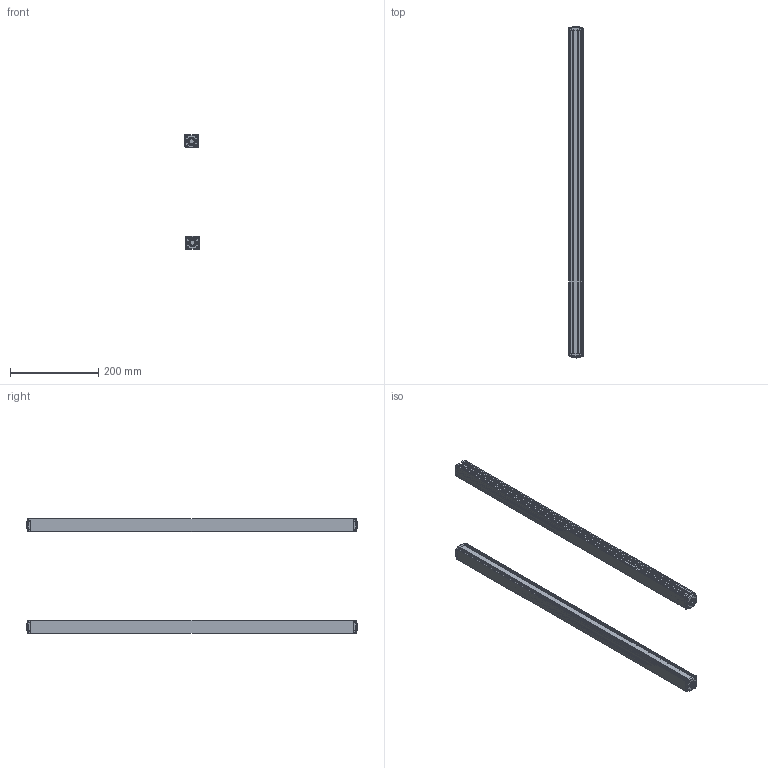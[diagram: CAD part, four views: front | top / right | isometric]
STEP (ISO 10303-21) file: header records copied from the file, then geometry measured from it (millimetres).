
FILE_DESCRIPTION (( 'STEP AP203' ), '1' );
FILE_NAME ('ZDA3620-730.STEP', '2022-12-22T07:51:24', ( 'User' ), ( 'China' ), 'SwSTEP 2.0', 'SolidWorks 2020', '' );
FILE_SCHEMA (( 'CONFIG_CONTROL_DESIGN' ));
Length unit declared in the file: millimetre
Products named in the file (5): 錨璃8 - 萵掛 (2); ZDA3620-730; 錨璃10; 錨璃8; 錨璃1
Assembly tree (8 placements, depth 2):
  ZDA3620-730
    錨璃1  x2
    錨璃8  x2
    錨璃8 - 萵掛 (2)  x2
    錨璃10  x2
Bounding box: 32.36 x 751.4 x 260.35 mm (x, y, z)
Volume: 466399.6 mm3; surface area: 494140.6 mm2
Topology: 8 solids, 8 shells, 1032 faces, 2690 edges, 1668 vertices
Faces by surface type: plane 464, cylinder 310, cone 120, bspline 58, torus 48, sphere 32
Entity records: 17901 total; most frequent: CARTESIAN_POINT 4731, ORIENTED_EDGE 2666, DIRECTION 2616, EDGE_CURVE 1333, AXIS2_PLACEMENT_3D 894, VERTEX_POINT 834, VECTOR 828, LINE 828
